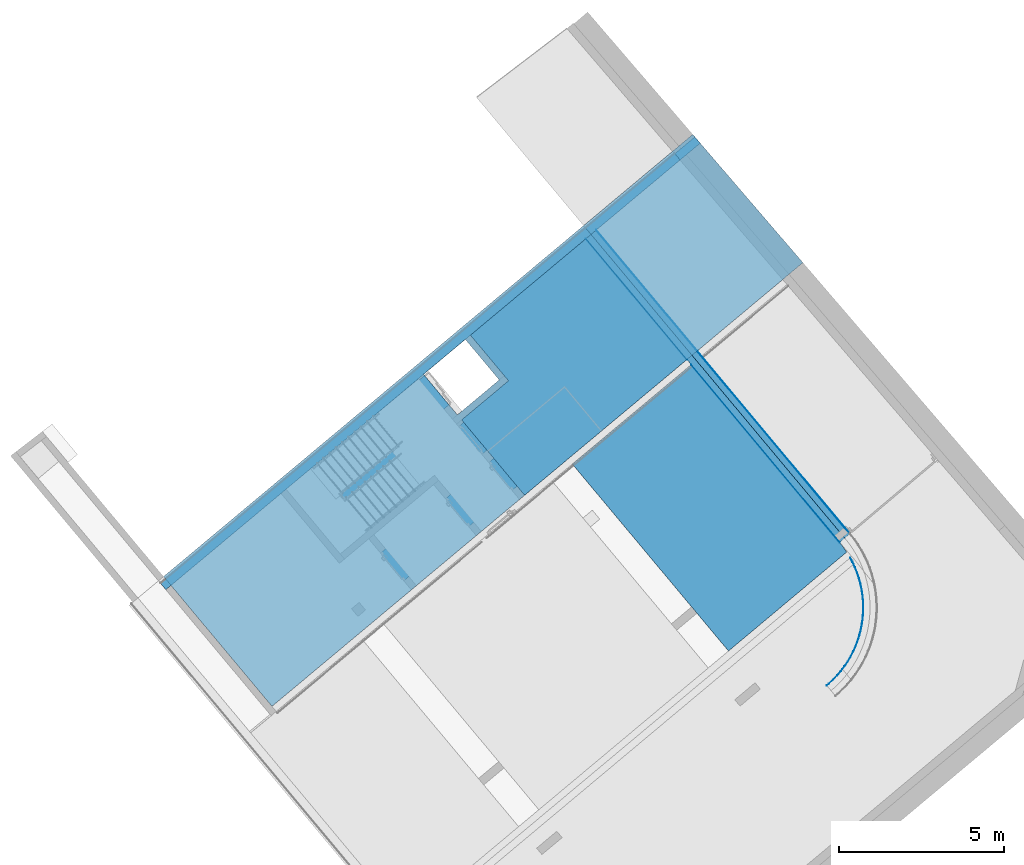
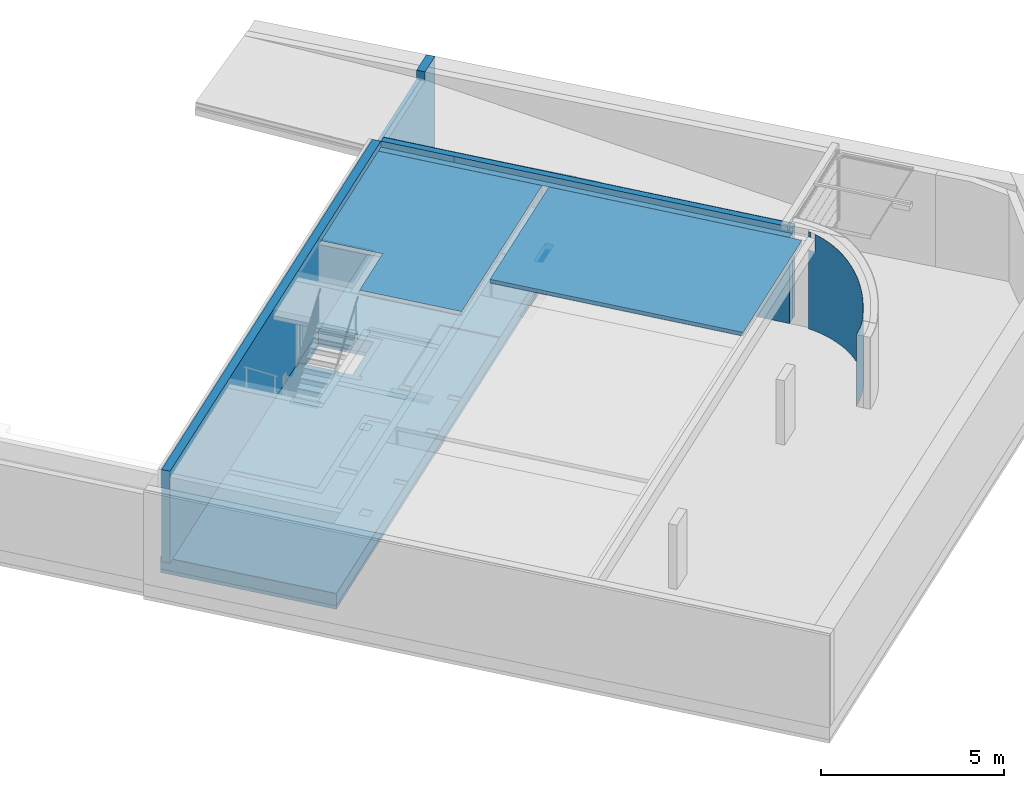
# One storey, part 11 of 17: 13 building element parts, 6 elements without a shape of their own.
"""IFC4 building model written with IfcOpenShell, lengths in metres."""

from ifc_helpers import new_model, entity, si_unit, converted_unit, derived_unit, direction, frame, origin_with_axes, place, context, subcontext, project, spatial, polygons, material, type_object, element, aggregate, save


model = new_model("IFC4")

# Units and contexts
model_context = context("Model", 3, precision=1e-05, world=origin_with_axes(), true_north=direction((0.0, 1.0)))
body_context = subcontext(model_context, "Body", "Model", "MODEL_VIEW")
ifc_project = project(units=[si_unit("LENGTHUNIT", "METRE"), si_unit("AREAUNIT", "SQUARE_METRE"), si_unit("VOLUMEUNIT", "CUBIC_METRE"), converted_unit("PLANEANGLEUNIT", "DEGREE", entity("IfcPlaneAngleMeasure", 0.0174532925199), si_unit("PLANEANGLEUNIT", "RADIAN"), dimensions=[0, 0, 0, 0, 0, 0, 0]), converted_unit("TIMEUNIT", "Year", entity("IfcTimeMeasure", 31556926.0), si_unit("TIMEUNIT", "SECOND"), dimensions=[0, 0, 1, 0, 0, 0, 0]), si_unit("MASSUNIT", "GRAM", prefix="KILO"), si_unit("THERMODYNAMICTEMPERATUREUNIT", "DEGREE_CELSIUS"), si_unit("LUMINOUSINTENSITYUNIT", "LUMEN"), si_unit("ENERGYUNIT", "JOULE", prefix="MEGA"), derived_unit("THERMALCONDUCTANCEUNIT", [(si_unit("POWERUNIT", "WATT"), 1), (si_unit("LENGTHUNIT", "METRE"), -1), (si_unit("THERMODYNAMICTEMPERATUREUNIT", "KELVIN"), -1)]), derived_unit("SPECIFICHEATCAPACITYUNIT", [(si_unit("ENERGYUNIT", "JOULE"), 1), (si_unit("MASSUNIT", "GRAM", prefix="KILO"), -1), (si_unit("THERMODYNAMICTEMPERATUREUNIT", "KELVIN"), -1)]), derived_unit("MASSDENSITYUNIT", [(si_unit("MASSUNIT", "GRAM", prefix="KILO"), 1), (si_unit("VOLUMEUNIT", "CUBIC_METRE"), -1)])], contexts=[model_context])

# Site, building, storey
site_placement = place(None, frame((-0.00153261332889, -0.00661245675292, 0.0), z_axis=(0.0, 0.0, 1.0), x_axis=(1.0, 0.0, 0.0)))
site = spatial("IfcSite", under=ifc_project, at=site_placement, Name="Site", CompositionType="ELEMENT")
building_placement = place(site_placement, origin_with_axes())
building = spatial("IfcBuilding", under=site, at=building_placement, Name="Building", CompositionType="ELEMENT")
storey_placement = place(building_placement, frame((0.0, 0.0, -3.3), z_axis=(0.0, 0.0, 1.0), x_axis=(1.0, 0.0, 0.0)))
storey = spatial("IfcBuildingStorey", under=building, at=storey_placement, Name="UG1", CompositionType="ELEMENT", Elevation=-3.3)

# Wall, building element part
wall_type_1 = type_object("IfcWallType", Name="AW KG 420", PredefinedType="NOTDEFINED")
wall_1_placement = place(storey_placement, frame((12.5559940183, 16.5842158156, 0.0), z_axis=(0.0, 0.0, 1.0), x_axis=(0.76888633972, 0.639385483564, 0.0)))
wall_1 = element("IfcWall", 1, at=wall_1_placement, inside=storey, type_object=wall_type_1, Name="Wand-002", PredefinedType="NOTDEFINED")
ifc_material_1 = material(Name="Zementputz")
building_element_part_1_placement = place(wall_1_placement, origin_with_axes())
building_element_part_1 = element("IfcBuildingElementPart", 2, at=building_element_part_1_placement, material=ifc_material_1, Name="Zementputz", PredefinedType="NOTDEFINED", context=body_context, shape_type="Tessellation", body=[
    polygons([(3.02590831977, 2.5169352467, 3.25716165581), (3.00917619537, 2.43435895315, 3.25125877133), (3.00917619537, 2.43435895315, 3.08000081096), (3.02590832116, 2.5169352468, 3.08000081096), (3.00911710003, 2.45924474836, 3.25118090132), (3.02080357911, 2.51691980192, 3.25530374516), (3.00911710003, 2.45924474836, 3.08000081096), (3.02080358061, 2.51691980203, 3.08000081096)], [[[1, 2, 3, 4]], [[5, 2, 1, 6]], [[2, 5, 7, 3]], [[8, 4, 3, 7]], [[6, 1, 4, 8]], [[5, 6, 8, 7]]], closed=True),
    polygons([(2.48922023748, 1.26206630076, 3.06466814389), (2.38191407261, 1.12290919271, 3.02592764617), (2.38191407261, 1.12290919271, 0.0), (2.48922023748, 1.26206630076, 0.0), (0.782190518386, 0.0948292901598, 2.44601306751), (0.950797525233, 0.144336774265, 2.50726794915), (1.11630322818, 0.203389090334, 2.56737244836), (1.27816778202, 0.271793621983, 2.62613051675), (1.43586321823, 0.349327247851, 2.68335049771), (1.58887516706, 0.435737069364, 2.73884575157), (1.73670453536, 0.530741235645, 2.79243526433), (1.87886913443, 0.634029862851, 2.84394423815), (2.01490525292, 0.745266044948, 2.89320466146), (2.14436916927, 0.864086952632, 2.940055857), (2.26683859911, 0.990105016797, 2.9843450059), (2.58840708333, 1.40712243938, 3.10044013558), (2.67915108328, 1.55760446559, 3.13312694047), (2.76115624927, 1.71302153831, 3.16262194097), (2.83415509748, 1.87286671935, 3.18882893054), (2.89790952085, 2.03661862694, 3.21166242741), (2.9522115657, 2.20374313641, 3.23104795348), (2.97814754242, 2.30241382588, 3.2402642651), (2.97297358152, 2.30239817, 3.2383811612), (2.94741214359, 2.2051523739, 3.22929794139), (2.89319837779, 2.03829955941, 3.20994393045), (2.82954760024, 1.87481386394, 3.18714755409), (2.75666742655, 1.71522854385, 3.16098316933), (2.67479557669, 1.56006413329, 3.13153611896), (2.58419909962, 1.4098267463, 3.09890245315), (2.48517350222, 1.26500642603, 3.06318861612), (2.37804178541, 1.12607554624, 3.02451109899), (2.26315339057, 0.993487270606, 2.98299605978), (2.14088305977, 0.867674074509, 2.93877891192), (2.01162961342, 0.749046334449, 2.89200388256), (1.87581464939, 0.637990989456, 2.84282354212), (1.73388116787, 0.534870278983, 2.79139830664), (1.58629212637, 0.440020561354, 2.73789591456), (1.43352892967, 0.353751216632, 2.68249087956), (1.27608985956, 0.276343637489, 2.62536392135), (1.11448844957, 0.208050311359, 2.56670137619), (0.949251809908, 0.149093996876, 2.5066945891), (0.780918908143, 0.099666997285, 2.44553928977), (0.682222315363, 0.0767160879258, 2.40966924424), (0.6821575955, 0.0715676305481, 2.40965734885), (2.26683859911, 0.990105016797, 0.0), (2.37804178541, 1.12607554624, 0.0), (2.48517350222, 1.26500642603, 0.0), (2.58840708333, 1.40712243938, 0.0), (0.782190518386, 0.0948292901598, 0.0), (0.950797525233, 0.144336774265, 0.0), (1.11630322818, 0.203389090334, 0.0), (1.27816778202, 0.271793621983, 0.0), (1.43586321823, 0.349327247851, 0.0), (1.58887516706, 0.435737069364, 0.0), (1.73670453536, 0.530741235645, 0.0), (1.87886913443, 0.634029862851, 0.0), (2.01490525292, 0.745266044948, 0.0), (2.14436916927, 0.864086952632, 0.0), (2.67915108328, 1.55760446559, 0.0), (2.76115624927, 1.71302153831, 0.0), (2.83415509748, 1.87286671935, 0.0), (2.89790952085, 2.03661862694, 0.0), (2.9522115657, 2.20374313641, 0.0), (2.99688411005, 2.37369512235, 0.0), (2.99688411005, 2.37369512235, 2.65000081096), (2.97814247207, 2.30239453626, 2.65000081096), (2.97814247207, 2.30239453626, 3.08000081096), (2.97814754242, 2.30241382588, 3.08000081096), (2.97297358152, 2.30239817, 3.08000081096), (2.97296851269, 2.30237888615, 3.08000081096), (2.97296851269, 2.30237888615, 2.65000081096), (2.99201206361, 2.37482806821, 2.65000081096), (2.99201206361, 2.37482806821, 0.0), (2.94741214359, 2.2051523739, 0.0), (2.89319837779, 2.03829955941, 0.0), (2.82954760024, 1.87481386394, 0.0), (2.75666742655, 1.71522854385, 0.0), (2.67479557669, 1.56006413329, 0.0), (2.58419909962, 1.4098267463, 0.0), (2.26315339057, 0.993487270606, 0.0), (2.14088305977, 0.867674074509, 0.0), (2.01162961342, 0.749046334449, 0.0), (1.87581464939, 0.637990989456, 0.0), (1.73388116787, 0.534870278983, 0.0), (1.58629212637, 0.440020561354, 0.0), (1.43352892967, 0.353751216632, 0.0), (1.27608985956, 0.276343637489, 0.0), (1.11448844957, 0.208050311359, 0.0), (0.949251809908, 0.149093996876, 0.0), (0.780918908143, 0.099666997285, 0.0), (0.610038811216, 0.0599305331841, 0.0), (0.610038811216, 0.0599305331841, 2.4), (0.682222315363, 0.0767160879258, 2.4), (0.6821575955, 0.0715676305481, 2.4), (0.611032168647, 0.0550281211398, 2.4), (0.611032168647, 0.0550281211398, 0.0), (3.02590832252, 2.51693525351, 0.0), (3.02590832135, 2.51693524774, 2.65000081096), (3.02080358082, 2.51691980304, 2.65000081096), (3.02080358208, 2.51691980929, 0.0), (0.437168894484, 0.0300142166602, 2.4), (0.437168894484, 0.0300142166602, 0.0), (0.262873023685, 0.0100156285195, 2.4), (0.0877197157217, 0.0, 2.4), (0.0, 0.0, 2.4), (0.0, -0.005, 2.4), (0.0878625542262, -0.005, 2.4), (0.263301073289, 0.00503193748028, 2.4), (0.437880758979, 0.0250630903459, 2.4), (0.437880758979, 0.0250630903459, 0.0), (0.262873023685, 0.0100156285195, 0.0), (0.0877197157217, 0.0, 0.0), (0.0, 0.0, 0.0), (0.0, -0.005, 0.0), (0.0878625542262, -0.005, 0.0), (0.263301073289, 0.00503193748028, 0.0)], [[[1, 2, 3, 4]], [[5, 6, 7, 8, 9, 10, 11, 12, 13, 14, 15, 2, 1, 16, 17, 18, 19, 20, 21, 22, 23, 24, 25, 26, 27, 28, 29, 30, 31, 32, 33, 34, 35, 36, 37, 38, 39, 40, 41, 42, 43, 44]], [[2, 15, 45, 3]], [[3, 46, 47, 4]], [[16, 1, 4, 48]], [[6, 5, 49, 50]], [[7, 6, 50, 51]], [[8, 7, 51, 52]], [[9, 8, 52, 53]], [[10, 9, 53, 54]], [[11, 10, 54, 55]], [[12, 11, 55, 56]], [[13, 12, 56, 57]], [[14, 13, 57, 58]], [[15, 14, 58, 45]], [[17, 16, 48, 59]], [[18, 17, 59, 60]], [[19, 18, 60, 61]], [[20, 19, 61, 62]], [[21, 20, 62, 63]], [[22, 21, 63, 64, 65, 66, 67, 68]], [[23, 22, 68, 69]], [[24, 23, 69, 70, 71, 72, 73, 74]], [[25, 24, 74, 75]], [[26, 25, 75, 76]], [[27, 26, 76, 77]], [[28, 27, 77, 78]], [[29, 28, 78, 79]], [[30, 29, 79, 47]], [[31, 30, 47, 46]], [[32, 31, 46, 80]], [[33, 32, 80, 81]], [[34, 33, 81, 82]], [[35, 34, 82, 83]], [[36, 35, 83, 84]], [[37, 36, 84, 85]], [[38, 37, 85, 86]], [[39, 38, 86, 87]], [[40, 39, 87, 88]], [[41, 40, 88, 89]], [[42, 41, 89, 90]], [[42, 90, 91, 92, 93, 43]], [[94, 44, 43, 93]], [[5, 44, 94, 95, 96, 49]], [[45, 80, 46, 3]], [[4, 47, 79, 48]], [[49, 90, 89, 50]], [[50, 89, 88, 51]], [[51, 88, 87, 52]], [[52, 87, 86, 53]], [[53, 86, 85, 54]], [[54, 85, 84, 55]], [[55, 84, 83, 56]], [[56, 83, 82, 57]], [[57, 82, 81, 58]], [[58, 81, 80, 45]], [[48, 79, 78, 59]], [[59, 78, 77, 60]], [[60, 77, 76, 61]], [[61, 76, 75, 62]], [[62, 75, 74, 63]], [[63, 74, 73, 64]], [[97, 98, 65, 64]], [[71, 66, 65, 98, 99, 72]], [[70, 67, 66, 71]], [[70, 69, 68, 67]], [[73, 72, 99, 100]], [[96, 91, 90, 49]], [[101, 92, 91, 102]], [[95, 94, 93, 92, 101, 103, 104, 105, 106, 107, 108, 109]], [[95, 109, 110, 96]], [[100, 97, 64, 73]], [[100, 99, 98, 97]], [[110, 102, 91, 96]], [[103, 101, 102, 111]], [[104, 103, 111, 112]], [[105, 104, 112, 113]], [[106, 105, 113, 114]], [[107, 106, 114, 115]], [[108, 107, 115, 116]], [[109, 108, 116, 110]], [[116, 111, 102, 110]], [[115, 112, 111, 116]], [[114, 113, 112, 115]]], closed=True),
])
aggregate(wall_1, [building_element_part_1])

# Wall, building element parts
wall_2_placement = place(storey_placement, frame((5.03034136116, 30.3910132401, 0.0), z_axis=(0.0, 0.0, 1.0), x_axis=(0.641193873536, -0.767378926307, 0.0)))
wall_2 = element("IfcWall", 3, at=wall_2_placement, inside=storey, type_object=wall_type_1, Name="Wand-002", PredefinedType="NOTDEFINED")
ifc_material_2 = material(Name="Kalkzementputz KG")
building_element_part_2_placement = place(wall_2_placement, origin_with_axes())
building_element_part_2 = element("IfcBuildingElementPart", 4, at=building_element_part_2_placement, material=ifc_material_2, Name="Kalkzementputz KG", PredefinedType="NOTDEFINED", context=body_context, shape_type="Tessellation", body=[
    polygons([(5.12700579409, 0.419999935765, 2.05383533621), (0.349991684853, 0.419999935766, 2.81041622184), (0.349991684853, 0.419999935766, 3.08), (12.3397155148, 0.41999822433, 3.08), (12.3397155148, 0.41999822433, 0.0), (5.12700579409, 0.419999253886, 0.0), (5.12700578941, 0.405, 2.05381648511), (0.349991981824, 0.405, 2.81039732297), (0.349991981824, 0.405, 3.08), (12.349865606, 0.405, 3.08), (12.349865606, 0.419777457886, 3.08), (12.349865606, 0.419777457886, 0.0), (5.12700578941, 0.405, 0.0), (12.349865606, 0.405, 0.0)], [[[1, 2, 3, 4, 5, 6]], [[2, 1, 7, 8]], [[2, 8, 9, 3]], [[4, 3, 9, 10, 11]], [[4, 11, 12, 5]], [[13, 6, 5, 12, 14]], [[1, 6, 13, 7]], [[7, 13, 14, 10, 9, 8]], [[11, 10, 14, 12]]], closed=True),
])
ifc_material_3 = material(Name="XPS KG")
building_element_part_3_placement = place(wall_2_placement, origin_with_axes())
building_element_part_3 = element("IfcBuildingElementPart", 5, at=building_element_part_3_placement, material=ifc_material_3, Name="XPS KG", PredefinedType="NOTDEFINED", context=body_context, shape_type="Tessellation", body=[
    polygons([(5.12700578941, 0.405, 2.05381648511), (0.349991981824, 0.405, 2.81039732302), (0.349991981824, 0.405, 3.08), (12.349865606, 0.405, 3.08), (12.349865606, 0.405, 0.0), (5.12700578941, 0.405, 0.0), (5.12700572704, 0.204999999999, 2.05356513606), (0.349995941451, 0.205, 2.81014533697), (0.349995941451, 0.205, 3.08), (12.349865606, 0.205, 3.08), (12.349865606, 0.205, 0.0), (5.12700572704, 0.205, 0.0)], [[[1, 2, 3, 4, 5, 6]], [[2, 1, 7, 8]], [[2, 8, 9, 3]], [[10, 4, 3, 9]], [[5, 4, 10, 11]], [[12, 6, 5, 11]], [[1, 6, 12, 7]], [[7, 12, 11, 10, 9, 8]]], closed=True),
])
ifc_material_4 = material(Name="Stahlbeton Wand")
building_element_part_4_placement = place(wall_2_placement, origin_with_axes())
building_element_part_4 = element("IfcBuildingElementPart", 6, at=building_element_part_4_placement, material=ifc_material_4, Name="Stahlbeton Wand", PredefinedType="NOTDEFINED", context=body_context, shape_type="Tessellation", body=[
    polygons([(5.12700572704, 0.205000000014, 2.05356513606), (0.349995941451, 0.205, 2.81014533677), (0.349995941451, 0.205, 3.08), (2.47515027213, 0.205000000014, 3.08), (2.4751501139, 0.205, 2.88), (12.349865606, 0.205, 2.88), (12.349865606, 0.205, 0.0), (5.12700572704, 0.205, 0.0), (5.12700566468, 0.00500000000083, 2.05331378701), (0.349999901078, 0.00500000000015, 2.80989335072), (0.349999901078, 0.00500000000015, 2.88), (0.349995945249, 0.204808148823, 2.88), (0.349995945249, 0.204808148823, 3.08), (12.349865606, 0.00500000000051, 2.88), (12.349865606, 0.00500000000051, 0.0), (5.12700566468, 0.00500000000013, 0.0)], [[[1, 2, 3, 4, 5, 6, 7, 8]], [[2, 1, 9, 10]], [[2, 10, 11, 12, 13, 3]], [[13, 4, 3]], [[4, 13, 12, 5]], [[5, 12, 11, 14, 6]], [[14, 15, 7, 6]], [[16, 8, 7, 15]], [[1, 8, 16, 9]], [[9, 16, 15, 14, 11, 10]]], closed=True),
])
building_element_part_5_placement = place(wall_2_placement, origin_with_axes())
building_element_part_5 = element("IfcBuildingElementPart", 7, at=building_element_part_5_placement, material=ifc_material_1, Name="Zementputz", PredefinedType="NOTDEFINED", context=body_context, shape_type="Tessellation", body=[
    polygons([(5.12700566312, 0.0, 2.05330750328), (5.12700566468, 0.00500000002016, 2.05331378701), (5.12700556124, 0.00499999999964, 2.88), (5.1270056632, 0.0, 2.88), (0.349999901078, 0.00500000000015, 2.80989335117), (0.350000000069, 0.0, 2.80988705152), (0.349999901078, 0.00500000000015, 2.88), (0.350000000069, 0.0, 2.88)], [[[1, 2, 3, 4]], [[5, 2, 1, 6]], [[2, 5, 7, 3]], [[3, 7, 8, 4]], [[6, 1, 4, 8]], [[5, 6, 8, 7]]], closed=True),
    polygons([(5.32700556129, 0.005, 2.88), (12.349865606, 0.00499999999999, 2.88), (12.349865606, 0.00499999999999, 0.0), (5.32700556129, 0.005, 0.0), (12.349865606, 0.0, 2.88), (5.32700566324, 0.0, 2.88), (12.349865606, 0.0, 0.0), (5.32700566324, 0.0, 0.0)], [[[1, 2, 3, 4]], [[5, 2, 1, 6]], [[2, 5, 7, 3]], [[7, 8, 4, 3]], [[6, 1, 4, 8]], [[5, 6, 8, 7]]], closed=True),
])
aggregate(wall_2, [building_element_part_2, building_element_part_3, building_element_part_4, building_element_part_5])

# Covering, building element parts
covering_type = type_object("IfcCoveringType", Name="Vorsatzschale Garage 130", PredefinedType="NOTDEFINED")
covering_1_placement = place(storey_placement, frame((4.84376131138, 23.293170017, 2.88), z_axis=(0.0, 0.0, 1.0), x_axis=(1.0, 0.0, 0.0)))
covering_1 = element("IfcCovering", 8, at=covering_1_placement, inside=storey, type_object=covering_type, Name="Decke-005", PredefinedType="NOTDEFINED")
ifc_material_5 = material(Name="Holzwolledämmplatte")
building_element_part_6_placement = place(covering_1_placement, origin_with_axes())
building_element_part_6 = element("IfcBuildingElementPart", 9, at=building_element_part_6_placement, material=ifc_material_5, Name="Holzwolledämmplatte", PredefinedType="NOTDEFINED", context=body_context, shape_type="Tessellation", body=[
    polygons([(0.0, 0.0, -0.12), (4.73617146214, -5.66800114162, -0.12), (4.73617146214, -5.66800114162, 0.0), (0.0, 0.0, 0.0), (3.60211373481, 3.00991956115, -0.12), (8.12623171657, -2.40430715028, -0.12), (8.16631151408, -2.45248494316, -0.12), (8.27145318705, -2.59501027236, -0.12), (8.31990813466, -2.66913299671, -0.12), (7.96961175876, -2.96221541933, -0.12), (7.96961175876, -2.96221541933, 0.0), (3.60211373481, 3.00991956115, 0.0), (8.31990813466, -2.66913299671, 0.0), (8.27145318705, -2.59501027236, 0.0), (8.16631151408, -2.45248494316, 0.0), (8.12623171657, -2.40430715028, 0.0)], [[[1, 2, 3, 4]], [[2, 1, 5, 6, 7, 8, 9, 10]], [[2, 10, 11, 3]], [[12, 4, 3, 11, 13, 14, 15, 16]], [[5, 1, 4, 12]], [[6, 5, 12, 16]], [[7, 6, 16, 15]], [[8, 7, 15, 14]], [[9, 8, 14, 13]], [[10, 9, 13, 11]]], closed=True),
])
building_element_part_7_placement = place(covering_1_placement, origin_with_axes())
building_element_part_7 = element("IfcBuildingElementPart", 10, at=building_element_part_7_placement, material=ifc_material_1, Name="Zementputz", PredefinedType="NOTDEFINED", context=body_context, shape_type="Tessellation", body=[
    polygons([(4.73600796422, -5.66780547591, -0.12), (7.7470608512, -3.14844897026, -0.12), (7.96961175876, -2.96221541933, -0.12), (8.31990813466, -2.66913299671, -0.12), (8.27145318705, -2.59501027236, -0.12), (8.16631151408, -2.45248494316, -0.12), (8.12623171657, -2.40430715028, -0.12), (3.60211373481, 3.00991956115, -0.12), (0.0, 0.0, -0.12), (7.7470608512, -3.14844897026, -0.13), (4.73600796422, -5.66780547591, -0.13), (7.96961175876, -2.96221541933, -0.13), (8.31990813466, -2.66913299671, -0.13), (8.27145318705, -2.59501027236, -0.13), (8.16631151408, -2.45248494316, -0.13), (8.12623171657, -2.40430715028, -0.13), (3.60211373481, 3.00991956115, -0.13), (0.0, 0.0, -0.13)], [[[1, 2, 3, 4, 5, 6, 7, 8, 9]], [[10, 2, 1, 11]], [[2, 10, 12, 3]], [[4, 3, 12, 13]], [[5, 4, 13, 14]], [[6, 5, 14, 15]], [[7, 6, 15, 16]], [[8, 7, 16, 17]], [[9, 8, 17, 18]], [[11, 1, 9, 18]], [[10, 11, 18, 17, 16, 15, 14, 13, 12]]], closed=True),
])
aggregate(covering_1, [building_element_part_6, building_element_part_7])

# Wall, building element part
wall_type_2 = type_object("IfcWallType", Name="Keller-AW 350", PredefinedType="NOTDEFINED")
wall_3_placement = place(storey_placement, frame((8.07301241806, 32.933460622, 0.0), z_axis=(0.0, 0.0, 1.0), x_axis=(-0.767366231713, -0.641209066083, 0.0)))
wall_3 = element("IfcWall", 11, at=wall_3_placement, inside=storey, type_object=wall_type_2, Name="Wand-002", PredefinedType="NOTDEFINED")
ifc_material_6 = material(Name="Stahlbeton Decke Garage")
building_element_part_8_placement = place(wall_3_placement, origin_with_axes())
building_element_part_8 = element("IfcBuildingElementPart", 12, at=building_element_part_8_placement, material=ifc_material_6, Name="Stahlbeton Decke Garage", PredefinedType="NOTDEFINED", context=body_context, shape_type="Tessellation", body=[
    polygons([(0.240018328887, 0.1, 3.08), (0.240004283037, 0.35, 3.08), (-0.554879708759, 0.35, 3.08), (-0.551431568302, 0.1, 3.08), (0.240004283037, 0.35, 2.77313259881), (0.240018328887, 0.1, 2.78563117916), (3.75995630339, 0.35, 2.77051147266), (3.75995630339, 0.35, 3.08), (20.5549542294, 0.35, 3.08), (20.5549542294, 0.35, 0.0), (-0.554879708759, 0.35, 0.0), (-0.551431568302, 0.1, 0.0), (20.5549543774, 0.1, 0.0), (20.5549543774, 0.1, 3.08), (3.75997034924, 0.1, 3.08), (3.75997034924, 0.1, 2.78301005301)], [[[1, 2, 3, 4]], [[5, 2, 1, 6]], [[7, 8, 9, 10, 11, 3, 2, 5]], [[3, 11, 12, 4]], [[6, 1, 4, 12, 13, 14, 15, 16]], [[7, 5, 6, 16]], [[15, 8, 7, 16]], [[8, 15, 14, 9]], [[14, 13, 10, 9]], [[11, 10, 13, 12]]], closed=True),
])
aggregate(wall_3, [building_element_part_8])

# Slab, building element parts
slab_type = type_object("IfcSlabType", Name="EB 02 Bodenplatte Einstellräume 535", PredefinedType="NOTDEFINED")
slab_placement = place(storey_placement, frame((8.49514325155, 33.2862082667, 0.015), z_axis=(0.0, 0.0, 1.0), x_axis=(1.0, 0.0, 0.0)))
slab = element("IfcSlab", 13, at=slab_placement, inside=storey, type_object=slab_type, Name="Decke-005", PredefinedType="NOTDEFINED")
ifc_material_7 = material(Name="Fliesen")
building_element_part_9_placement = place(slab_placement, origin_with_axes())
building_element_part_9 = element("IfcBuildingElementPart", 14, at=building_element_part_9_placement, material=ifc_material_7, Name="Fliesen", PredefinedType="NOTDEFINED", context=body_context, shape_type="Tessellation", body=[
    polygons([(0.228088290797, -0.265531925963, -0.015), (0.0651400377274, -0.0759013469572, -0.015), (-4.74195917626e-05, -3.96237258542e-05, -0.015), (0.0, 0.0, -0.015), (2.91156954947, -3.38842582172, -0.015), (2.91156954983, -3.38842582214, 0.0), (-4.74195917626e-05, -3.96237258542e-05, 0.0), (0.0, 0.0, 0.0)], [[[1, 2, 3, 4, 5]], [[5, 6, 7, 3, 2, 1]], [[8, 4, 3, 7]], [[4, 8, 6, 5]], [[8, 7, 6]]], closed=True),
    polygons([(-8.52949755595, -13.8084018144, -0.015), (-12.754417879, -17.3387376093, -0.015), (-15.817412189, -13.6731070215, -0.015), (-12.4796786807, -10.8841062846, -0.015), (-10.7104439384, -13.0014334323, -0.015), (-10.556970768, -12.8731915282, -0.015), (-9.82325546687, -12.2601003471, -0.015), (-9.46329339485, -12.6908840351, -0.015), (-9.30982022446, -12.562642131, -0.015), (-9.66978229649, -12.131858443, -0.015), (-7.85496992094, -10.6154044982, -0.015), (-7.49659853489, -11.0442845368, -0.015), (-7.3431253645, -10.9160426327, -0.015), (-7.70149675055, -10.4871625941, -0.015), (-7.82973865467, -10.3336894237, -0.015), (-10.6852126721, -12.7197183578, -0.015), (-12.3262054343, -10.7558644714, -0.015), (-8.31195981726, -7.4015721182, -0.015), (-8.28311508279, -7.43609198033, -0.015), (-8.1296419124, -7.30785007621, -0.015), (-7.38583886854, -8.19799446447, -0.015), (-7.53931203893, -8.32623636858, -0.015), (-7.09678040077, -8.85583497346, -0.015), (-6.94330723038, -8.72759306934, -0.015), (-7.0043192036, -8.65457714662, -0.015), (-5.58409177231, -7.46783766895, -0.015), (-5.71234465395, -7.31437367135, -0.015), (-6.73835723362, -6.08667422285, -0.015), (-3.24038403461, -3.16377765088, -0.015), (-0.177470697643, -6.82946324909, -0.015), (-2.74727251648, -8.97678500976, -0.015), (-3.84802719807, -7.65945966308, -0.015), (-3.8800876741, -7.62109137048, -0.015), (-6.228311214, -9.58326272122, -0.015), (-6.23797675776, -9.57169550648, -0.015), (-6.39144992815, -9.6999374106, -0.015), (-6.18276801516, -9.94967695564, -0.015), (-6.02929484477, -9.82143505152, -0.015), (-6.19625073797, -9.62163101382, -0.015), (-3.88639549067, -7.69152013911, -0.015), (-2.78564080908, -9.00884548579, -0.015), (-5.09549605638, -10.9389563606, -0.015), (-5.32396437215, -10.6655374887, -0.015), (-5.47743754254, -10.7937793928, -0.015), (-5.24896922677, -11.0671982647, -0.015), (-6.40773883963, -12.0354640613, -0.015), (-6.63779489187, -11.7601450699, -0.015), (-6.79126806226, -11.888386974, -0.015), (-6.56121201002, -12.1637059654, -0.015), (-8.37602438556, -13.6801599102, -0.015), (-8.60448975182, -13.4067445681, -0.015), (-8.75796292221, -13.5349864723, -0.015), (-10.341209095, -14.379581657, -0.015), (-10.1488462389, -14.6097914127, -0.015), (-9.91863648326, -14.4174285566, -0.015), (-10.1109993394, -14.187218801, -0.015), (-12.754417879, -17.3387376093, 0.0), (-8.52949755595, -13.8084018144, 0.0), (-15.817412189, -13.6731070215, 0.0), (-12.4796786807, -10.8841062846, 0.0), (-10.7104439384, -13.0014334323, 0.0), (-10.556970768, -12.8731915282, 0.0), (-9.82325546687, -12.2601003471, 0.0), (-9.46329339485, -12.6908840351, 0.0), (-9.30982022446, -12.562642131, 0.0), (-9.66978229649, -12.131858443, 0.0), (-7.85496992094, -10.6154044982, 0.0), (-7.49659853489, -11.0442845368, 0.0), (-7.3431253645, -10.9160426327, 0.0), (-7.70149675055, -10.4871625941, 0.0), (-7.82973865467, -10.3336894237, 0.0), (-10.6852126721, -12.7197183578, 0.0), (-12.3262054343, -10.7558644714, 0.0), (-8.31195981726, -7.4015721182, 0.0), (-8.28311508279, -7.43609198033, 0.0), (-8.1296419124, -7.30785007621, 0.0), (-7.38583886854, -8.19799446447, 0.0), (-7.53931203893, -8.32623636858, 0.0), (-7.09678040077, -8.85583497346, 0.0), (-6.94330723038, -8.72759306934, 0.0), (-7.0043192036, -8.65457714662, 0.0), (-5.58409177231, -7.46783766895, 0.0), (-5.71234465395, -7.31437367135, 0.0), (-6.73835723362, -6.08667422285, 0.0), (-3.24038403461, -3.16377765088, 0.0), (-0.177470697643, -6.82946324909, 0.0), (-2.74727251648, -8.97678500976, 0.0), (-3.84802719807, -7.65945966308, 0.0), (-3.8800876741, -7.62109137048, 0.0), (-6.228311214, -9.58326272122, 0.0), (-6.23797675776, -9.57169550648, 0.0), (-6.39144992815, -9.6999374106, 0.0), (-6.18276801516, -9.94967695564, 0.0), (-6.02929484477, -9.82143505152, 0.0), (-6.19625073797, -9.62163101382, 0.0), (-3.88639549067, -7.69152013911, 0.0), (-2.78564080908, -9.00884548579, 0.0), (-5.09549605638, -10.9389563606, 0.0), (-5.32396437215, -10.6655374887, 0.0), (-5.47743754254, -10.7937793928, 0.0), (-5.24896922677, -11.0671982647, 0.0), (-6.40773883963, -12.0354640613, 0.0), (-6.63779489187, -11.7601450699, 0.0), (-6.79126806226, -11.888386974, 0.0), (-6.56121201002, -12.1637059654, 0.0), (-8.37602438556, -13.6801599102, 0.0), (-8.60448975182, -13.4067445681, 0.0), (-8.75796292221, -13.5349864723, 0.0), (-10.341209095, -14.379581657, 0.0), (-10.1488462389, -14.6097914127, 0.0), (-9.91863648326, -14.4174285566, 0.0), (-10.1109993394, -14.187218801, 0.0)], [[[1, 2, 3, 4, 5, 6, 7, 8, 9, 10, 11, 12, 13, 14, 15, 16, 17, 18, 19, 20, 21, 22, 23, 24, 25, 26, 27, 28, 29, 30, 31, 32, 33, 34, 35, 36, 37, 38, 39, 40, 41, 42, 43, 44, 45, 46, 47, 48, 49, 50, 51, 52], [53, 54, 55, 56]], [[57, 2, 1, 58]], [[59, 3, 2, 57]], [[4, 3, 59, 60]], [[60, 61, 5, 4]], [[6, 5, 61, 62]], [[63, 7, 6, 62]], [[64, 8, 7, 63]], [[65, 9, 8, 64]], [[66, 10, 9, 65]], [[67, 11, 10, 66]], [[68, 12, 11, 67]], [[13, 12, 68, 69]], [[69, 70, 14, 13]], [[71, 15, 14, 70]], [[72, 16, 15, 71]], [[73, 17, 16, 72]], [[18, 17, 73, 74]], [[75, 19, 18, 74]], [[76, 20, 19, 75]], [[77, 21, 20, 76]], [[78, 22, 21, 77]], [[23, 22, 78, 79]], [[80, 24, 23, 79]], [[81, 25, 24, 80]], [[82, 26, 25, 81]], [[27, 26, 82, 83]], [[84, 28, 27, 83]], [[85, 29, 28, 84]], [[30, 29, 85, 86]], [[86, 87, 31, 30]], [[32, 31, 87, 88]], [[89, 33, 32, 88]], [[90, 34, 33, 89]], [[91, 35, 34, 90]], [[91, 92, 36, 35]], [[93, 37, 36, 92]], [[94, 38, 37, 93]], [[39, 38, 94, 95]], [[96, 40, 39, 95]], [[96, 97, 41, 40]], [[97, 98, 42, 41]], [[99, 43, 42, 98]], [[100, 44, 43, 99]], [[101, 45, 44, 100]], [[102, 46, 45, 101]], [[103, 47, 46, 102]], [[104, 48, 47, 103]], [[105, 49, 48, 104]], [[105, 106, 50, 49]], [[107, 51, 50, 106]], [[108, 52, 51, 107]], [[58, 1, 52, 108]], [[109, 110, 54, 53]], [[110, 111, 55, 54]], [[111, 112, 56, 55]], [[112, 109, 53, 56]], [[60, 59, 57, 58, 108, 107, 106, 105, 104, 103, 102, 101, 100, 99, 98, 97, 96, 95, 94, 93, 92, 91, 90, 89, 88, 87, 86, 85, 84, 83, 82, 81, 80, 79, 78, 77, 76, 75, 74, 73, 72, 71, 70, 69, 68, 67, 66, 65, 64, 63, 62, 61], [109, 112, 111, 110]]], closed=True),
    polygons([(-6.89183048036, -6.2149160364, -0.015), (-5.86581782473, -7.4426155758, -0.015), (-7.13255494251, -8.50109882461, -0.015), (-5.86597913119, -7.44260112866, -0.015), (-5.86581782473, -7.4426155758, 0.0), (-6.89183053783, -6.21491608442, 0.0), (-7.13255494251, -8.50109882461, 0.0), (-5.86597913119, -7.44260112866, 0.0)], [[[1, 2, 3, 4]], [[5, 2, 1, 6]], [[7, 3, 2, 5]], [[4, 3, 7, 8]], [[6, 1, 4, 8]], [[8, 7, 5, 6]]], closed=True),
    polygons([(-0.385863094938, -0.77854797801, -0.015), (2.72767971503, -4.4019248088, -0.015), (0.144822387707, -6.5601557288, -0.015), (-2.91809026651, -2.89446988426, -0.015), (-0.385863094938, -0.77854797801, 0.0), (2.72767971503, -4.4019248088, 0.0), (0.144822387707, -6.5601557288, 0.0), (-2.91809026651, -2.89446988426, 0.0)], [[[1, 2, 3, 4]], [[5, 6, 2, 1]], [[7, 3, 2, 6]], [[7, 8, 4, 3]], [[1, 4, 8, 5]], [[8, 7, 6, 5]]], closed=True),
])
ifc_material_8 = material(Name="WU-Beton")
building_element_part_10_placement = place(slab_placement, origin_with_axes())
building_element_part_10 = element("IfcBuildingElementPart", 15, at=building_element_part_10_placement, material=ifc_material_8, Name="WU-Beton", PredefinedType="NOTDEFINED", context=body_context, shape_type="Tessellation", body=[
    polygons([(-16.0418355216, -13.4045289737, -0.415), (-16.0418355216, -13.4045289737, -0.015), (0.0, 0.0, -0.015), (0.0, 0.0, -0.415), (-12.754417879, -17.3387376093, -0.415), (-12.754417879, -17.3387376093, -0.015), (3.34162378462, -3.88891425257, -0.015), (-8.15897771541, -7.27272999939, -0.015), (-6.89250180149, -6.21411275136, -0.015), (-5.86597913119, -7.44260112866, -0.015), (-7.13255494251, -8.50109882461, -0.015), (3.34162378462, -3.88891425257, -0.415), (-8.15897771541, -7.27272999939, -0.415), (-7.13255494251, -8.50109882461, -0.415), (-5.86597913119, -7.44260112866, -0.415), (-6.89250180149, -6.21411275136, -0.415)], [[[1, 2, 3, 4]], [[5, 6, 2, 1]], [[3, 2, 6, 7], [8, 9, 10, 11]], [[4, 3, 7, 12]], [[4, 12, 5, 1], [13, 14, 15, 16]], [[12, 7, 6, 5]], [[16, 9, 8, 13]], [[15, 10, 9, 16]], [[14, 11, 10, 15]], [[13, 8, 11, 14]]], closed=True),
])
ifc_material_9 = material(Name="Stampfbeton")
building_element_part_11_placement = place(slab_placement, origin_with_axes())
building_element_part_11 = element("IfcBuildingElementPart", 16, at=building_element_part_11_placement, material=ifc_material_9, Name="Stampfbeton", PredefinedType="NOTDEFINED", context=body_context, shape_type="Tessellation", body=[
    polygons([(0.0, 0.0, -0.535), (-16.0418355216, -13.4045289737, -0.535), (-16.0418355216, -13.4045289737, -0.415), (0.0, 0.0, -0.415), (3.34162378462, -3.88891425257, -0.535), (-12.754417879, -17.3387376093, -0.535), (-8.15897771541, -7.27272999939, -0.535), (-7.13255494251, -8.50109882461, -0.535), (-5.86597913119, -7.44260112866, -0.535), (-6.89250180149, -6.21411275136, -0.535), (-12.754417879, -17.3387376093, -0.415), (3.34162378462, -3.88891425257, -0.415), (-8.15897771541, -7.27272999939, -0.415), (-6.89250180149, -6.21411275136, -0.415), (-5.86597913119, -7.44260112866, -0.415), (-7.13255494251, -8.50109882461, -0.415)], [[[1, 2, 3, 4]], [[1, 5, 6, 2], [7, 8, 9, 10]], [[2, 6, 11, 3]], [[4, 3, 11, 12], [13, 14, 15, 16]], [[5, 1, 4, 12]], [[6, 5, 12, 11]], [[8, 7, 13, 16]], [[9, 8, 16, 15]], [[10, 9, 15, 14]], [[7, 10, 14, 13]]], closed=True),
])
aggregate(slab, [building_element_part_9, building_element_part_10, building_element_part_11])

# Covering, building element parts
covering_2_placement = place(storey_placement, frame((1.75678601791, 27.1995340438, 2.88), z_axis=(0.0, 0.0, 1.0), x_axis=(1.0, 0.0, 0.0)))
covering_2 = element("IfcCovering", 17, at=covering_2_placement, inside=storey, type_object=covering_type, Name="Decke-005", PredefinedType="NOTDEFINED")
building_element_part_12_placement = place(covering_2_placement, origin_with_axes())
building_element_part_12 = element("IfcBuildingElementPart", 18, at=building_element_part_12_placement, material=ifc_material_5, Name="Holzwolledämmplatte", PredefinedType="NOTDEFINED", context=body_context, shape_type="Tessellation", body=[
    polygons([(3.4979731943, 2.922896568, -0.12), (3.4979731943, 2.922896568, 0.0), (6.5608470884, -0.74297122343, 0.0), (6.5608470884, -0.74297122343, -0.12), (0.0, 0.0, 0.0), (0.0, 0.0, -0.12), (1.15425419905, -1.38117227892, 0.0), (-0.26596196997, -2.56790292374, 0.0), (1.64293460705, -4.85237001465, 0.0), (1.64293460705, -4.85237001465, -0.12), (-0.26596196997, -2.56790292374, -0.12), (1.15425419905, -1.38117227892, -0.12)], [[[1, 2, 3, 4]], [[5, 2, 1, 6]], [[2, 5, 7, 8, 9, 3]], [[3, 9, 10, 4]], [[6, 1, 4, 10, 11, 12]], [[5, 6, 12, 7]], [[8, 7, 12, 11]], [[9, 8, 11, 10]]], closed=True),
])
building_element_part_13_placement = place(covering_2_placement, origin_with_axes())
building_element_part_13 = element("IfcBuildingElementPart", 19, at=building_element_part_13_placement, material=ifc_material_1, Name="Zementputz", PredefinedType="NOTDEFINED", context=body_context, shape_type="Tessellation", body=[
    polygons([(3.4979731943, 2.922896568, -0.13), (3.4979731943, 2.922896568, -0.12), (6.5608470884, -0.74297122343, -0.12), (6.5608470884, -0.74297122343, -0.13), (0.0, 0.0, -0.12), (0.0, 0.0, -0.13), (1.15425419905, -1.38117227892, -0.12), (-0.26596196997, -2.56790292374, -0.12), (1.64293460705, -4.85237001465, -0.12), (1.64293460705, -4.85237001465, -0.13), (-0.26596196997, -2.56790292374, -0.13), (1.15425419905, -1.38117227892, -0.13)], [[[1, 2, 3, 4]], [[5, 2, 1, 6]], [[2, 5, 7, 8, 9, 3]], [[4, 3, 9, 10]], [[6, 1, 4, 10, 11, 12]], [[5, 6, 12, 7]], [[11, 8, 7, 12]], [[10, 9, 8, 11]]], closed=True),
])
aggregate(covering_2, [building_element_part_12, building_element_part_13])

save(model, "model.ifc")
